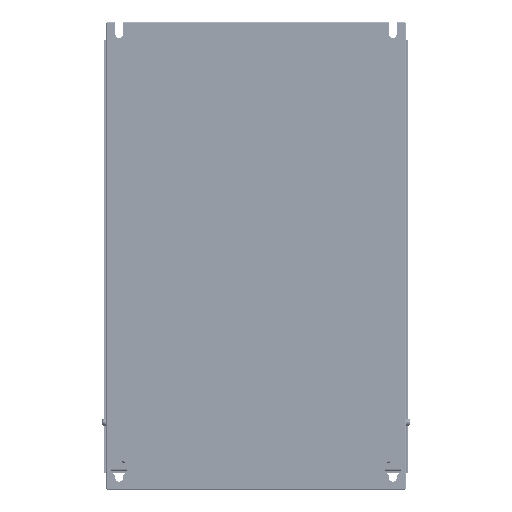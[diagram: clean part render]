
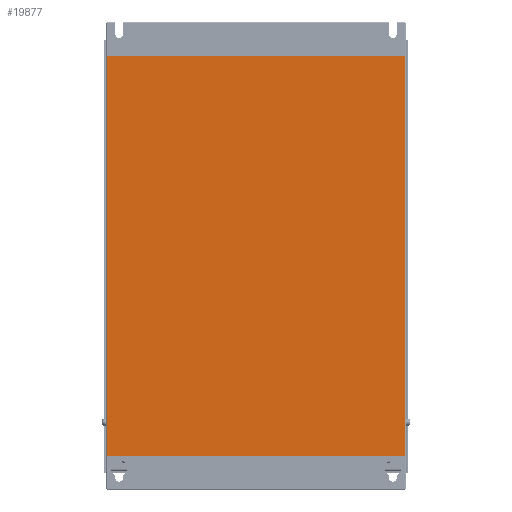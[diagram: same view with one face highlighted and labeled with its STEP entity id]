
A CAD part, top view. The second image highlights one B-rep face of the part: STEP entity #19877.
In plain terms, the highlighted planar face has unit normal (0, 0, 1).
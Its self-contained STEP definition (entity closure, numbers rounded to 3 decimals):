
#2001=DIRECTION('',(0.,1.,0.));
#2002=VECTOR('',#2001,630.);
#2003=CARTESIAN_POINT('',(201.,0.,0.));
#2004=LINE('',#2003,#2002);
#2365=CARTESIAN_POINT('',(-185.,615.,0.));
#2366=DIRECTION('',(0.,0.,1.));
#2367=DIRECTION('',(-1.,0.,0.));
#2368=AXIS2_PLACEMENT_3D('',#2365,#2366,#2367);
#2370=DIRECTION('',(0.,1.,0.));
#2371=VECTOR('',#2370,15.);
#2372=CARTESIAN_POINT('',(-179.75,615.,0.));
#2373=LINE('',#2372,#2371);
#2374=CARTESIAN_POINT('',(185.,615.,0.));
#2375=DIRECTION('',(0.,0.,1.));
#2376=DIRECTION('',(-1.,0.,0.));
#2377=AXIS2_PLACEMENT_3D('',#2374,#2375,#2376);
#2379=DIRECTION('',(0.,1.,0.));
#2380=VECTOR('',#2379,15.);
#2381=CARTESIAN_POINT('',(190.25,615.,0.));
#2382=LINE('',#2381,#2380);
#2383=CARTESIAN_POINT('',(185.,15.,0.));
#2384=DIRECTION('',(0.,0.,1.));
#2385=DIRECTION('',(-1.,0.,0.));
#2386=AXIS2_PLACEMENT_3D('',#2383,#2384,#2385);
#2388=CARTESIAN_POINT('',(185.,28.,0.));
#2389=DIRECTION('',(0.,0.,1.));
#2390=DIRECTION('',(0.477,-0.879,0.));
#2391=AXIS2_PLACEMENT_3D('',#2388,#2389,#2390);
#2393=CARTESIAN_POINT('',(185.,28.,0.));
#2394=DIRECTION('',(0.,0.,1.));
#2395=DIRECTION('',(0.477,0.879,0.));
#2396=AXIS2_PLACEMENT_3D('',#2393,#2394,#2395);
#2398=CARTESIAN_POINT('',(-185.,28.,0.));
#2399=DIRECTION('',(0.,0.,1.));
#2400=DIRECTION('',(0.477,-0.879,0.));
#2401=AXIS2_PLACEMENT_3D('',#2398,#2399,#2400);
#2403=CARTESIAN_POINT('',(-185.,28.,0.));
#2404=DIRECTION('',(0.,0.,1.));
#2405=DIRECTION('',(0.477,0.879,0.));
#2406=AXIS2_PLACEMENT_3D('',#2403,#2404,#2405);
#2408=CARTESIAN_POINT('',(-185.,15.,0.));
#2409=DIRECTION('',(0.,0.,1.));
#2410=DIRECTION('',(-1.,0.,0.));
#2411=AXIS2_PLACEMENT_3D('',#2408,#2409,#2410);
#2413=DIRECTION('',(1.,0.,0.));
#2414=VECTOR('',#2413,402.);
#2415=CARTESIAN_POINT('',(-201.,0.,0.));
#2416=LINE('',#2415,#2414);
#2579=DIRECTION('',(0.,-1.,0.));
#2580=VECTOR('',#2579,630.);
#2581=CARTESIAN_POINT('',(-201.,630.,0.));
#2582=LINE('',#2581,#2580);
#4993=DIRECTION('',(-1.,0.,0.));
#4994=VECTOR('',#4993,359.5);
#4995=CARTESIAN_POINT('',(179.75,630.,0.));
#4996=LINE('',#4995,#4994);
#5006=DIRECTION('',(-1.,0.,0.));
#5007=VECTOR('',#5006,10.75);
#5008=CARTESIAN_POINT('',(-190.25,630.,0.));
#5009=LINE('',#5008,#5007);
#5014=DIRECTION('',(-1.,0.,0.));
#5015=VECTOR('',#5014,10.75);
#5016=CARTESIAN_POINT('',(201.,630.,0.));
#5017=LINE('',#5016,#5015);
#5061=DIRECTION('',(0.,1.,0.));
#5062=VECTOR('',#5061,15.);
#5063=CARTESIAN_POINT('',(-190.25,615.,0.));
#5064=LINE('',#5063,#5062);
#5205=DIRECTION('',(0.,1.,0.));
#5206=VECTOR('',#5205,15.);
#5207=CARTESIAN_POINT('',(179.75,615.,0.));
#5208=LINE('',#5207,#5206);
#8969=DIRECTION('',(0.,1.,0.));
#8970=VECTOR('',#8969,3.334);
#8971=CARTESIAN_POINT('',(179.75,15.,0.));
#8972=LINE('',#8971,#8970);
#8981=DIRECTION('',(0.,-1.,0.));
#8982=VECTOR('',#8981,3.334);
#8983=CARTESIAN_POINT('',(190.25,18.334,0.));
#8984=LINE('',#8983,#8982);
#8985=DIRECTION('',(0.,-1.,0.));
#8986=VECTOR('',#8985,3.334);
#8987=CARTESIAN_POINT('',(-179.75,18.334,0.));
#8988=LINE('',#8987,#8986);
#8997=DIRECTION('',(0.,1.,0.));
#8998=VECTOR('',#8997,3.334);
#8999=CARTESIAN_POINT('',(-190.25,15.,0.));
#9000=LINE('',#8999,#8998);
#14761=CARTESIAN_POINT('',(201.,630.,0.));
#14762=VERTEX_POINT('',#14761);
#14765=CARTESIAN_POINT('',(201.,0.,0.));
#14766=VERTEX_POINT('',#14765);
#14849=CARTESIAN_POINT('',(-179.75,18.334,0.));
#14850=CARTESIAN_POINT('',(-179.75,15.,0.));
#14851=VERTEX_POINT('',#14849);
#14852=VERTEX_POINT('',#14850);
#14853=CARTESIAN_POINT('',(-201.,0.,0.));
#14854=VERTEX_POINT('',#14853);
#14855=CARTESIAN_POINT('',(-201.,630.,0.));
#14856=VERTEX_POINT('',#14855);
#14857=CARTESIAN_POINT('',(-190.25,630.,0.));
#14858=VERTEX_POINT('',#14857);
#14859=CARTESIAN_POINT('',(-190.25,615.,0.));
#14860=VERTEX_POINT('',#14859);
#14861=CARTESIAN_POINT('',(-179.75,615.,0.));
#14862=VERTEX_POINT('',#14861);
#14863=CARTESIAN_POINT('',(-179.75,630.,0.));
#14864=VERTEX_POINT('',#14863);
#14865=CARTESIAN_POINT('',(179.75,630.,0.));
#14866=VERTEX_POINT('',#14865);
#14867=CARTESIAN_POINT('',(179.75,615.,0.));
#14868=VERTEX_POINT('',#14867);
#14869=CARTESIAN_POINT('',(190.25,615.,0.));
#14870=VERTEX_POINT('',#14869);
#14871=CARTESIAN_POINT('',(190.25,630.,0.));
#14872=VERTEX_POINT('',#14871);
#14873=CARTESIAN_POINT('',(179.75,15.,0.));
#14874=CARTESIAN_POINT('',(190.25,15.,0.));
#14875=VERTEX_POINT('',#14873);
#14876=VERTEX_POINT('',#14874);
#14877=CARTESIAN_POINT('',(190.25,18.334,0.));
#14878=VERTEX_POINT('',#14877);
#14879=CARTESIAN_POINT('',(190.25,37.666,0.));
#14880=CARTESIAN_POINT('',(179.75,18.334,0.));
#14881=VERTEX_POINT('',#14879);
#14882=VERTEX_POINT('',#14880);
#14883=CARTESIAN_POINT('',(-179.75,37.666,0.));
#14884=CARTESIAN_POINT('',(-190.25,18.334,0.));
#14885=VERTEX_POINT('',#14883);
#14886=VERTEX_POINT('',#14884);
#14887=CARTESIAN_POINT('',(-190.25,15.,0.));
#14888=VERTEX_POINT('',#14887);
#19824=CARTESIAN_POINT('',(-203.,0.,0.));
#19825=DIRECTION('',(0.,0.,1.));
#19826=DIRECTION('',(1.,0.,0.));
#19827=AXIS2_PLACEMENT_3D('',#19824,#19825,#19826);
#19828=PLANE('',#19827);
#19830=ORIENTED_EDGE('',*,*,#19829,.F.);
#19832=ORIENTED_EDGE('',*,*,#19831,.F.);
#19834=ORIENTED_EDGE('',*,*,#19833,.F.);
#19836=ORIENTED_EDGE('',*,*,#19835,.F.);
#19838=ORIENTED_EDGE('',*,*,#19837,.T.);
#19840=ORIENTED_EDGE('',*,*,#19839,.T.);
#19842=ORIENTED_EDGE('',*,*,#19841,.F.);
#19844=ORIENTED_EDGE('',*,*,#19843,.F.);
#19846=ORIENTED_EDGE('',*,*,#19845,.T.);
#19847=ORIENTED_EDGE('',*,*,#19814,.T.);
#19849=ORIENTED_EDGE('',*,*,#19848,.F.);
#19850=ORIENTED_EDGE('',*,*,#18309,.F.);
#19851=EDGE_LOOP('',(#19830,#19832,#19834,#19836,#19838,#19840,#19842,#19844,
#19846,#19847,#19849,#19850));
#19852=FACE_OUTER_BOUND('',#19851,.F.);
#19854=ORIENTED_EDGE('',*,*,#19853,.T.);
#19856=ORIENTED_EDGE('',*,*,#19855,.F.);
#19858=ORIENTED_EDGE('',*,*,#19857,.T.);
#19860=ORIENTED_EDGE('',*,*,#19859,.T.);
#19862=ORIENTED_EDGE('',*,*,#19861,.F.);
#19863=EDGE_LOOP('',(#19854,#19856,#19858,#19860,#19862));
#19864=FACE_BOUND('',#19863,.F.);
#19866=ORIENTED_EDGE('',*,*,#19865,.F.);
#19868=ORIENTED_EDGE('',*,*,#19867,.T.);
#19870=ORIENTED_EDGE('',*,*,#19869,.T.);
#19872=ORIENTED_EDGE('',*,*,#19871,.F.);
#19874=ORIENTED_EDGE('',*,*,#19873,.T.);
#19875=EDGE_LOOP('',(#19866,#19868,#19870,#19872,#19874));
#19876=FACE_BOUND('',#19875,.F.);
#19877=ADVANCED_FACE('',(#19852,#19864,#19876),#19828,.T.);
#2369=CIRCLE('',#2368,5.25);
#2378=CIRCLE('',#2377,5.25);
#2387=CIRCLE('',#2386,5.25);
#2392=CIRCLE('',#2391,11.);
#2397=CIRCLE('',#2396,11.);
#2402=CIRCLE('',#2401,11.);
#2407=CIRCLE('',#2406,11.);
#2412=CIRCLE('',#2411,5.25);
#18309=EDGE_CURVE('',#14766,#14762,#2004,.T.);
#19814=EDGE_CURVE('',#14870,#14872,#2382,.T.);
#19829=EDGE_CURVE('',#14854,#14766,#2416,.T.);
#19831=EDGE_CURVE('',#14856,#14854,#2582,.T.);
#19833=EDGE_CURVE('',#14858,#14856,#5009,.T.);
#19835=EDGE_CURVE('',#14860,#14858,#5064,.T.);
#19837=EDGE_CURVE('',#14860,#14862,#2369,.T.);
#19839=EDGE_CURVE('',#14862,#14864,#2373,.T.);
#19841=EDGE_CURVE('',#14866,#14864,#4996,.T.);
#19843=EDGE_CURVE('',#14868,#14866,#5208,.T.);
#19845=EDGE_CURVE('',#14868,#14870,#2378,.T.);
#19848=EDGE_CURVE('',#14762,#14872,#5017,.T.);
#19853=EDGE_CURVE('',#14875,#14876,#2387,.T.);
#19855=EDGE_CURVE('',#14878,#14876,#8984,.T.);
#19857=EDGE_CURVE('',#14878,#14881,#2392,.T.);
#19859=EDGE_CURVE('',#14881,#14882,#2397,.T.);
#19861=EDGE_CURVE('',#14875,#14882,#8972,.T.);
#19865=EDGE_CURVE('',#14851,#14852,#8988,.T.);
#19867=EDGE_CURVE('',#14851,#14885,#2402,.T.);
#19869=EDGE_CURVE('',#14885,#14886,#2407,.T.);
#19871=EDGE_CURVE('',#14888,#14886,#9000,.T.);
#19873=EDGE_CURVE('',#14888,#14852,#2412,.T.);
